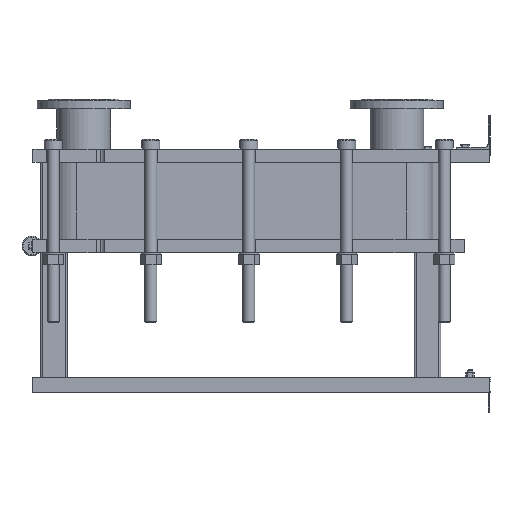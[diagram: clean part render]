
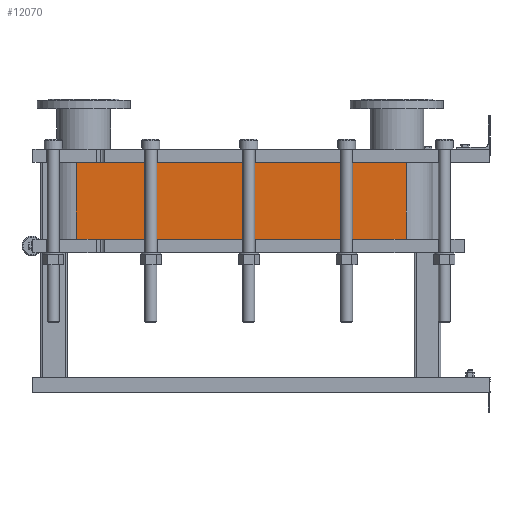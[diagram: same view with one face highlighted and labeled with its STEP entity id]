
A CAD part, left-side view. The second image highlights one B-rep face of the part: STEP entity #12070.
In plain terms, the highlighted planar face has unit normal (-1, 0, 0).
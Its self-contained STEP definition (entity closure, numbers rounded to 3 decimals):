
#1064=LINE('',#21140,#2164);
#1065=LINE('',#21144,#2165);
#1066=LINE('',#21146,#2166);
#1067=LINE('',#21147,#2167);
#2164=VECTOR('',#15790,10.);
#2165=VECTOR('',#15795,10.);
#2166=VECTOR('',#15796,10.);
#2167=VECTOR('',#15797,10.);
#3304=FACE_OUTER_BOUND('',#4091,.T.);
#4091=EDGE_LOOP('',(#9793,#9794,#9795,#9796));
#5677=VERTEX_POINT('',#21137);
#5678=VERTEX_POINT('',#21139);
#5679=VERTEX_POINT('',#21143);
#5680=VERTEX_POINT('',#21145);
#7118=EDGE_CURVE('',#5678,#5677,#1064,.T.);
#7120=EDGE_CURVE('',#5677,#5679,#1065,.T.);
#7121=EDGE_CURVE('',#5680,#5679,#1066,.T.);
#7122=EDGE_CURVE('',#5680,#5678,#1067,.T.);
#9793=ORIENTED_EDGE('',*,*,#7120,.T.);
#9794=ORIENTED_EDGE('',*,*,#7121,.F.);
#9795=ORIENTED_EDGE('',*,*,#7122,.T.);
#9796=ORIENTED_EDGE('',*,*,#7118,.T.);
#11441=PLANE('',#13191);
#12070=ADVANCED_FACE('',(#3304),#11441,.T.);
#13191=AXIS2_PLACEMENT_3D('',#21142,#15793,#15794);
#15790=DIRECTION('',(0.,0.,-1.));
#15793=DIRECTION('center_axis',(-1.,0.,0.));
#15794=DIRECTION('ref_axis',(0.,1.,0.));
#15795=DIRECTION('',(0.,-1.,0.));
#15796=DIRECTION('',(0.,0.,-1.));
#15797=DIRECTION('',(0.,1.,0.));
#21137=CARTESIAN_POINT('',(-248.152,1243.818,-231.15));
#21139=CARTESIAN_POINT('',(-248.152,1243.818,0.));
#21140=CARTESIAN_POINT('',(-248.152,1243.818,0.));
#21142=CARTESIAN_POINT('Origin',(-248.152,251.818,0.));
#21143=CARTESIAN_POINT('',(-248.152,251.818,-231.15));
#21144=CARTESIAN_POINT('',(-248.152,499.818,-231.15));
#21145=CARTESIAN_POINT('',(-248.152,251.818,0.));
#21146=CARTESIAN_POINT('',(-248.152,251.818,0.));
#21147=CARTESIAN_POINT('',(-248.152,251.818,0.));
